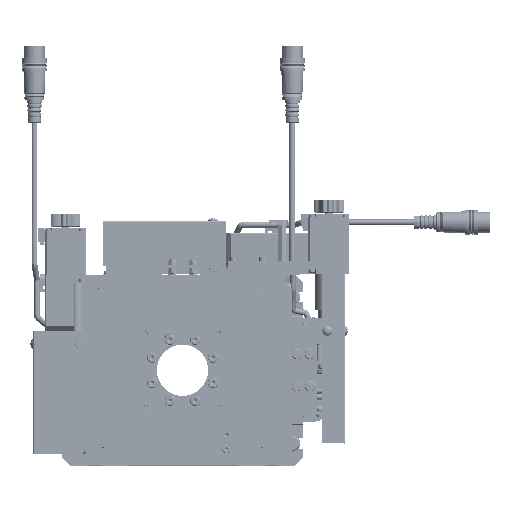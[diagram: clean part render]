
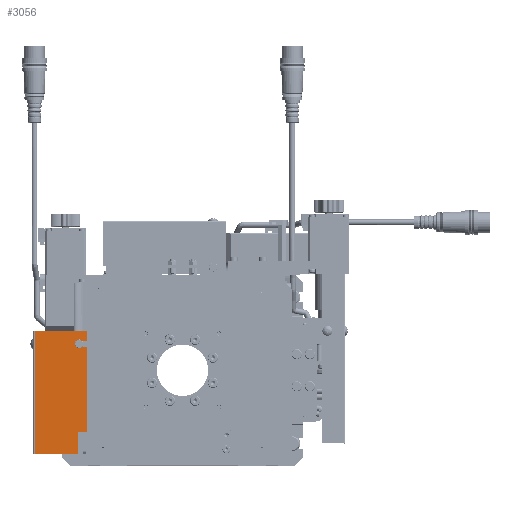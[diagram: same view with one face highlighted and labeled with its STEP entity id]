
A CAD part, top view. The second image highlights one B-rep face of the part: STEP entity #3056.
In plain terms, the highlighted planar face has unit normal (0, 0, 1).
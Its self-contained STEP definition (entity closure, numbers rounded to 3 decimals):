
#3056=ADVANCED_FACE('',(#25370),#25369,.T.);
#25369=PLANE('',#91949);
#25370=FACE_OUTER_BOUND('',#91950,.T.);
#91946=CARTESIAN_POINT('',(-61.95,-65.4,44.));
#91947=DIRECTION('',(0.,0.,1.));
#91948=DIRECTION('',(0.,1.,0.));
#91949=AXIS2_PLACEMENT_3D('',#91946,#91947,#91948);
#91950=EDGE_LOOP('',(#137577,#137578,#137579,#137580,#137581,#137582,#137583,#137584,#137585,#137586,#137587,#137588,#137589,#137590,#137591,#137592));
#137577=ORIENTED_EDGE('',*,*,#170693,.F.);
#137578=ORIENTED_EDGE('',*,*,#168738,.T.);
#137579=ORIENTED_EDGE('',*,*,#168735,.T.);
#137580=ORIENTED_EDGE('',*,*,#168751,.T.);
#137581=ORIENTED_EDGE('',*,*,#168747,.T.);
#137582=ORIENTED_EDGE('',*,*,#169192,.T.);
#137583=ORIENTED_EDGE('',*,*,#170694,.F.);
#137584=ORIENTED_EDGE('',*,*,#170676,.T.);
#137585=ORIENTED_EDGE('',*,*,#169086,.T.);
#137586=ORIENTED_EDGE('',*,*,#169178,.T.);
#137587=ORIENTED_EDGE('',*,*,#170661,.T.);
#137588=ORIENTED_EDGE('',*,*,#170673,.T.);
#137589=ORIENTED_EDGE('',*,*,#170677,.T.);
#137590=ORIENTED_EDGE('',*,*,#170695,.F.);
#137591=ORIENTED_EDGE('',*,*,#170696,.F.);
#137592=ORIENTED_EDGE('',*,*,#170684,.T.);
#168735=EDGE_CURVE('',#202402,#202395,#202403,.T.);
#168738=EDGE_CURVE('',#202422,#202402,#202423,.T.);
#168747=EDGE_CURVE('',#202484,#202477,#202485,.T.);
#168751=EDGE_CURVE('',#202395,#202484,#202510,.T.);
#169086=EDGE_CURVE('',#204760,#204753,#204761,.T.);
#169178=EDGE_CURVE('',#204753,#205371,#205378,.T.);
#169192=EDGE_CURVE('',#202477,#205436,#205469,.T.);
#170661=EDGE_CURVE('',#205371,#215080,#215087,.T.);
#170673=EDGE_CURVE('',#215080,#215161,#215168,.T.);
#170676=EDGE_CURVE('',#215180,#204760,#215187,.T.);
#170677=EDGE_CURVE('',#215161,#215193,#215194,.T.);
#170684=EDGE_CURVE('',#215240,#215233,#215241,.T.);
#170693=EDGE_CURVE('',#202422,#215233,#215299,.T.);
#170694=EDGE_CURVE('',#215180,#205436,#215305,.T.);
#170695=EDGE_CURVE('',#215311,#215193,#215312,.T.);
#170696=EDGE_CURVE('',#215240,#215311,#215318,.T.);
#202395=VERTEX_POINT('',#317037);
#202402=VERTEX_POINT('',#317041);
#202403=LINE('',#317042,#317043);
#202422=VERTEX_POINT('',#317057);
#202423=LINE('',#317058,#317059);
#202477=VERTEX_POINT('',#317099);
#202484=VERTEX_POINT('',#317103);
#202485=LINE('',#317104,#317105);
#202510=LINE('',#317123,#317124);
#204753=VERTEX_POINT('',#318449);
#204760=VERTEX_POINT('',#318454);
#204761=LINE('',#318455,#318456);
#205371=VERTEX_POINT('',#318818);
#205378=LINE('',#318822,#318823);
#205436=VERTEX_POINT('',#318854);
#205469=LINE('',#318879,#318880);
#215080=VERTEX_POINT('',#324607);
#215087=LINE('',#324612,#324613);
#215161=VERTEX_POINT('',#324658);
#215168=LINE('',#324663,#324664);
#215180=VERTEX_POINT('',#324669);
#215187=LINE('',#324673,#324674);
#215193=VERTEX_POINT('',#324676);
#215194=LINE('',#324677,#324678);
#215233=VERTEX_POINT('',#324698);
#215240=VERTEX_POINT('',#324702);
#215241=LINE('',#324703,#324704);
#215299=LINE('',#324737,#324738);
#215305=LINE('',#324740,#324741);
#215311=VERTEX_POINT('',#324743);
#215312=LINE('',#324744,#324745);
#215318=LINE('',#324747,#324748);
#317037=CARTESIAN_POINT('',(-73.25,16.412,44.));
#317041=CARTESIAN_POINT('',(-70.5,14.825,44.));
#317042=CARTESIAN_POINT('',(-70.5,14.825,44.));
#317043=VECTOR('',#317044,3.175);
#317044=DIRECTION('',(-0.866,0.5,0.));
#317057=CARTESIAN_POINT('',(-68.464,16.,44.));
#317058=CARTESIAN_POINT('',(-68.464,16.,44.));
#317059=VECTOR('',#317060,2.351);
#317060=DIRECTION('',(-0.866,-0.5,0.));
#317099=CARTESIAN_POINT('',(-70.5,21.175,44.));
#317103=CARTESIAN_POINT('',(-73.25,19.588,44.));
#317104=CARTESIAN_POINT('',(-73.25,19.588,44.));
#317105=VECTOR('',#317106,3.175);
#317106=DIRECTION('',(0.866,0.5,0.));
#317123=CARTESIAN_POINT('',(-73.25,16.412,44.));
#317124=VECTOR('',#317125,3.175);
#317125=DIRECTION('',(0.,1.,0.));
#318449=CARTESIAN_POINT('',(-73.916,27.,44.));
#318454=CARTESIAN_POINT('',(-65.5,27.,44.));
#318455=CARTESIAN_POINT('',(-65.5,27.,44.));
#318456=VECTOR('',#318457,8.416);
#318457=DIRECTION('',(-1.,0.,0.));
#318818=CARTESIAN_POINT('',(-94.,27.,44.));
#318822=CARTESIAN_POINT('',(-73.916,27.,44.));
#318823=VECTOR('',#318824,20.084);
#318824=DIRECTION('',(-1.,0.,0.));
#318854=CARTESIAN_POINT('',(-68.464,20.,44.));
#318879=CARTESIAN_POINT('',(-70.5,21.175,44.));
#318880=VECTOR('',#318881,2.351);
#318881=DIRECTION('',(0.866,-0.5,0.));
#324607=CARTESIAN_POINT('',(-101.,27.,44.));
#324612=CARTESIAN_POINT('',(-94.,27.,44.));
#324613=VECTOR('',#324614,7.);
#324614=DIRECTION('',(-1.,0.,0.));
#324658=CARTESIAN_POINT('',(-101.,-57.,44.));
#324663=CARTESIAN_POINT('',(-101.,27.,44.));
#324664=VECTOR('',#324665,84.);
#324665=DIRECTION('',(0.,-1.,0.));
#324669=CARTESIAN_POINT('',(-65.5,20.,44.));
#324673=CARTESIAN_POINT('',(-65.5,20.,44.));
#324674=VECTOR('',#324675,7.);
#324675=DIRECTION('',(0.,1.,0.));
#324676=CARTESIAN_POINT('',(-71.5,-57.,44.));
#324677=CARTESIAN_POINT('',(-101.,-57.,44.));
#324678=VECTOR('',#324679,29.5);
#324679=DIRECTION('',(1.,0.,0.));
#324698=CARTESIAN_POINT('',(-65.5,16.,44.));
#324702=CARTESIAN_POINT('',(-65.5,-42.,44.));
#324703=CARTESIAN_POINT('',(-65.5,-42.,44.));
#324704=VECTOR('',#324705,58.);
#324705=DIRECTION('',(0.,1.,0.));
#324737=CARTESIAN_POINT('',(-68.464,16.,44.));
#324738=VECTOR('',#324739,2.964);
#324739=DIRECTION('',(1.,0.,0.));
#324740=CARTESIAN_POINT('',(-65.5,20.,44.));
#324741=VECTOR('',#324742,2.964);
#324742=DIRECTION('',(-1.,0.,0.));
#324743=CARTESIAN_POINT('',(-71.5,-42.,44.));
#324744=CARTESIAN_POINT('',(-71.5,-42.,44.));
#324745=VECTOR('',#324746,15.);
#324746=DIRECTION('',(0.,-1.,0.));
#324747=CARTESIAN_POINT('',(-65.5,-42.,44.));
#324748=VECTOR('',#324749,6.);
#324749=DIRECTION('',(-1.,0.,0.));
